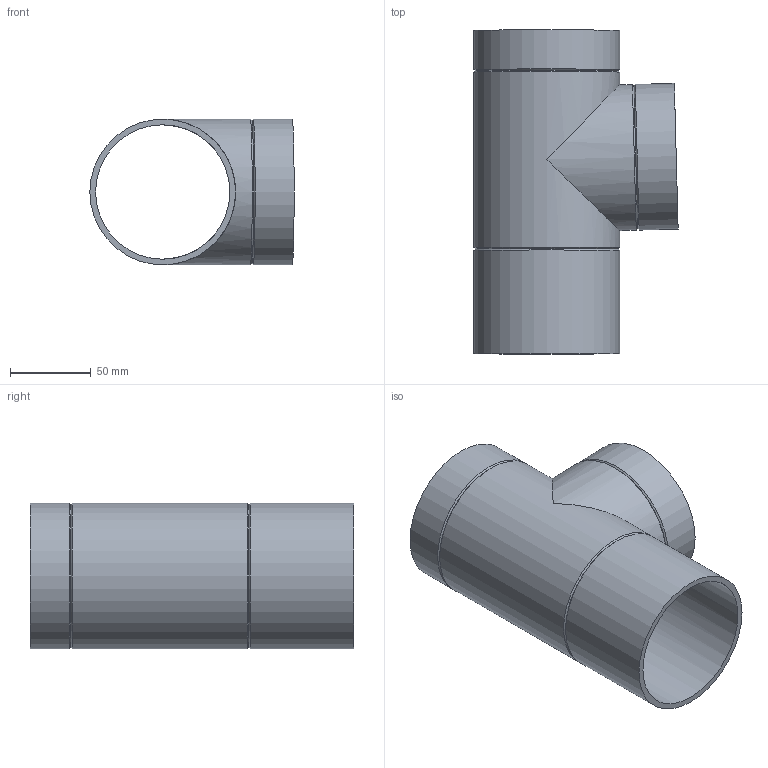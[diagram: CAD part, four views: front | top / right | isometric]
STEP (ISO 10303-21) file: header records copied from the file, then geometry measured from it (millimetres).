
FILE_DESCRIPTION(/* description */ (''),/* implementation_level */ '2;1');
FILE_NAME(/* name */ 'Z:\Geberit\Export\NewStep\366180.stp',/* time_stamp */ '2014-04-02T07:54:03+02:00',/* author */ ('nelson'),/* organization */ (''),/* preprocessor_version */ 'ST-DEVELOPER v15.2',/* originating_system */ 'Autodesk Inventor 2014',/* authorisation */ '');
FILE_SCHEMA (('AUTOMOTIVE_DESIGN { 1 0 10303 214 3 1 1 }'));
Length unit declared in the file: millimetre
Products named in the file (1): 366180
Bounding box: 126.15 x 200 x 90 mm (x, y, z)
Volume: 213207.9 mm3; surface area: 125654.7 mm2
Topology: 1 solids, 1 shells, 16 faces, 39 edges, 25 vertices
Faces by surface type: cylinder 7, cone 6, plane 3
Full cylindrical faces by diameter (mm): 83 x2, 90 x5
Entity records: 399 total; most frequent: DIRECTION 72, CARTESIAN_POINT 55, ORIENTED_EDGE 38, AXIS2_PLACEMENT_3D 36, EDGE_LOOP 34, FACE_BOUND 22, VERTEX_POINT 19, EDGE_CURVE 19
